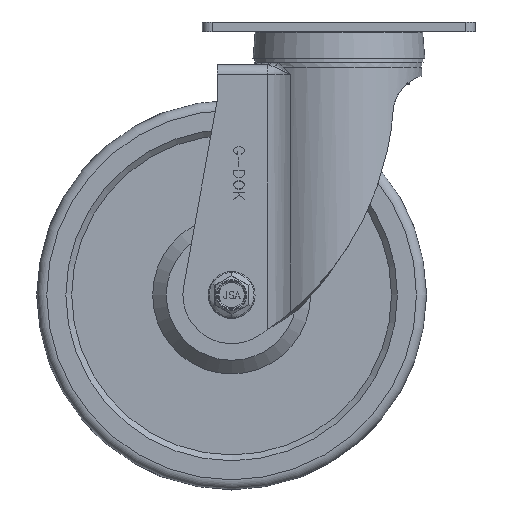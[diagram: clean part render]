
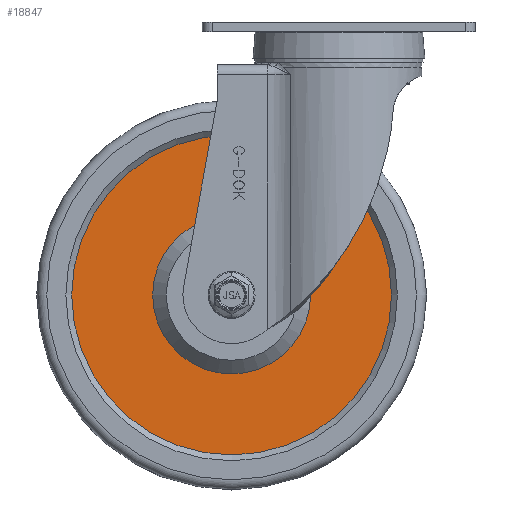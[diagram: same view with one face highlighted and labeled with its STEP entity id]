
A CAD part, front view. The second image highlights one B-rep face of the part: STEP entity #18847.
In plain terms, the highlighted planar face has unit normal (0, -1, 0).
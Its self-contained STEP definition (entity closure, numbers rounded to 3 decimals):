
#4973=FACE_BOUND('',#6106,.T.);
#5055=FACE_OUTER_BOUND('',#6105,.T.);
#6105=EDGE_LOOP('',(#12345,#12346));
#6106=EDGE_LOOP('',(#12347,#12348));
#7235=CIRCLE('',#19919,40.5);
#7236=CIRCLE('',#19920,40.5);
#7237=CIRCLE('',#19922,82.);
#7238=CIRCLE('',#19923,82.);
#7535=VERTEX_POINT('',#25611);
#7536=VERTEX_POINT('',#25612);
#7537=VERTEX_POINT('',#25617);
#7538=VERTEX_POINT('',#25618);
#9447=EDGE_CURVE('',#7535,#7536,#7235,.T.);
#9449=EDGE_CURVE('',#7536,#7535,#7236,.T.);
#9450=EDGE_CURVE('',#7537,#7538,#7237,.T.);
#9451=EDGE_CURVE('',#7538,#7537,#7238,.T.);
#12345=ORIENTED_EDGE('',*,*,#9450,.T.);
#12346=ORIENTED_EDGE('',*,*,#9451,.T.);
#12347=ORIENTED_EDGE('',*,*,#9447,.F.);
#12348=ORIENTED_EDGE('',*,*,#9449,.F.);
#18121=PLANE('',#19921);
#18847=ADVANCED_FACE('',(#5055,#4973),#18121,.T.);
#19919=AXIS2_PLACEMENT_3D('',#25613,#21141,#21142);
#19920=AXIS2_PLACEMENT_3D('',#25615,#21144,#21145);
#19921=AXIS2_PLACEMENT_3D('',#25616,#21146,#21147);
#19922=AXIS2_PLACEMENT_3D('',#25619,#21148,#21149);
#19923=AXIS2_PLACEMENT_3D('',#25620,#21150,#21151);
#21141=DIRECTION('center_axis',(0.,-1.,0.));
#21142=DIRECTION('ref_axis',(0.,0.,
1.));
#21144=DIRECTION('center_axis',(0.,-1.,0.));
#21145=DIRECTION('ref_axis',(0.,0.,
1.));
#21146=DIRECTION('center_axis',(0.,-1.,0.));
#21147=DIRECTION('ref_axis',(0.,0.,
1.));
#21148=DIRECTION('center_axis',(0.,-1.,0.));
#21149=DIRECTION('ref_axis',(0.,0.,
1.));
#21150=DIRECTION('center_axis',(0.,-1.,0.));
#21151=DIRECTION('ref_axis',(0.,0.,
1.));
#25611=CARTESIAN_POINT('',(-55.,-17.,-99.5));
#25612=CARTESIAN_POINT('',(-55.,-17.,-180.5));
#25613=CARTESIAN_POINT('Origin',(-55.,-17.,-140.));
#25615=CARTESIAN_POINT('Origin',(-55.,-17.,-140.));
#25616=CARTESIAN_POINT('Origin',(-55.,-17.,-99.5));
#25617=CARTESIAN_POINT('',(-55.,-17.,-58.));
#25618=CARTESIAN_POINT('',(-55.,-17.,-222.));
#25619=CARTESIAN_POINT('Origin',(-55.,-17.,-140.));
#25620=CARTESIAN_POINT('Origin',(-55.,-17.,-140.));
